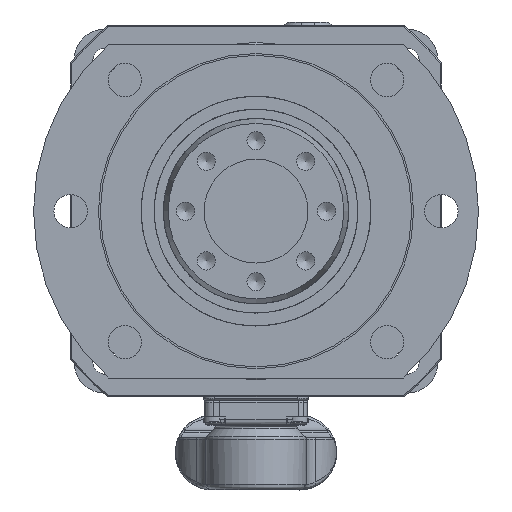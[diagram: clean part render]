
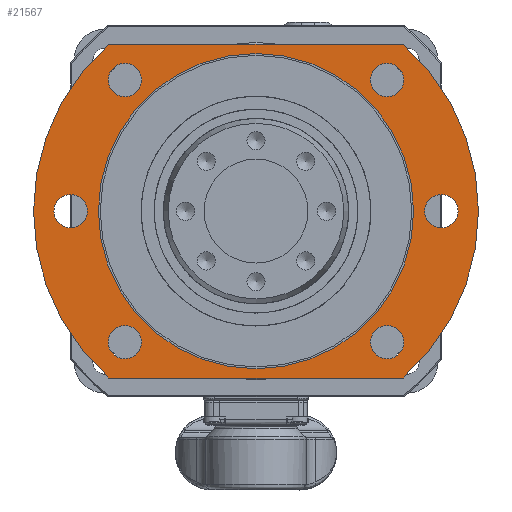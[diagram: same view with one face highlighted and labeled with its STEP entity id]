
A CAD part, front view. The second image highlights one B-rep face of the part: STEP entity #21567.
In plain terms, the highlighted planar face has unit normal (0, -1, 0).
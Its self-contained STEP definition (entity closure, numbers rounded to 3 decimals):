
#1099=LINE('',#30734,#2053);
#1100=LINE('',#30735,#2054);
#2053=VECTOR('',#25506,1000.);
#2054=VECTOR('',#25507,1000.);
#3242=PLANE('',#23041);
#3930=ORIENTED_EDGE('',*,*,#9205,.F.);
#3931=ORIENTED_EDGE('',*,*,#9206,.F.);
#3932=ORIENTED_EDGE('',*,*,#9207,.F.);
#3933=ORIENTED_EDGE('',*,*,#9208,.F.);
#3934=ORIENTED_EDGE('',*,*,#9209,.F.);
#3935=ORIENTED_EDGE('',*,*,#9210,.F.);
#3936=ORIENTED_EDGE('',*,*,#9211,.F.);
#3937=ORIENTED_EDGE('',*,*,#9180,.T.);
#3938=ORIENTED_EDGE('',*,*,#9212,.T.);
#3939=ORIENTED_EDGE('',*,*,#9202,.T.);
#3940=ORIENTED_EDGE('',*,*,#9213,.T.);
#9180=EDGE_CURVE('',#11891,#11890,#13721,.T.);
#9202=EDGE_CURVE('',#11911,#11912,#13740,.T.);
#9205=EDGE_CURVE('',#11913,#11913,#13741,.T.);
#9206=EDGE_CURVE('',#11914,#11914,#13742,.T.);
#9207=EDGE_CURVE('',#11915,#11915,#13743,.T.);
#9208=EDGE_CURVE('',#11916,#11916,#13744,.T.);
#9209=EDGE_CURVE('',#11917,#11917,#13745,.T.);
#9210=EDGE_CURVE('',#11918,#11918,#13746,.T.);
#9211=EDGE_CURVE('',#11919,#11919,#13747,.T.);
#9212=EDGE_CURVE('',#11890,#11911,#1099,.T.);
#9213=EDGE_CURVE('',#11912,#11891,#1100,.T.);
#11890=VERTEX_POINT('',#30660);
#11891=VERTEX_POINT('',#30662);
#11911=VERTEX_POINT('',#30715);
#11912=VERTEX_POINT('',#30716);
#11913=VERTEX_POINT('',#30721);
#11914=VERTEX_POINT('',#30723);
#11915=VERTEX_POINT('',#30725);
#11916=VERTEX_POINT('',#30727);
#11917=VERTEX_POINT('',#30729);
#11918=VERTEX_POINT('',#30731);
#11919=VERTEX_POINT('',#30733);
#13721=CIRCLE('',#23010,60.);
#13740=CIRCLE('',#23040,60.);
#13741=CIRCLE('',#23042,4.5);
#13742=CIRCLE('',#23043,4.5);
#13743=CIRCLE('',#23044,4.5);
#13744=CIRCLE('',#23045,4.5);
#13745=CIRCLE('',#23046,4.5);
#13746=CIRCLE('',#23047,4.5);
#13747=CIRCLE('',#23048,42.5);
#14876=EDGE_LOOP('',(#3930));
#14877=EDGE_LOOP('',(#3931));
#14878=EDGE_LOOP('',(#3932));
#14879=EDGE_LOOP('',(#3933));
#14880=EDGE_LOOP('',(#3934));
#14881=EDGE_LOOP('',(#3935));
#14882=EDGE_LOOP('',(#3936));
#14883=EDGE_LOOP('',(#3937,#3938,#3939,#3940));
#16649=FACE_BOUND('',#14876,.T.);
#16650=FACE_BOUND('',#14877,.T.);
#16651=FACE_BOUND('',#14878,.T.);
#16652=FACE_BOUND('',#14879,.T.);
#16653=FACE_BOUND('',#14880,.T.);
#16654=FACE_BOUND('',#14881,.T.);
#16655=FACE_BOUND('',#14882,.T.);
#16656=FACE_BOUND('',#14883,.T.);
#21567=ADVANCED_FACE('',(#16649,#16650,#16651,#16652,#16653,#16654,#16655,
#16656),#3242,.F.);
#23010=AXIS2_PLACEMENT_3D('',#30661,#25423,#25424);
#23040=AXIS2_PLACEMENT_3D('',#30714,#25486,#25487);
#23041=AXIS2_PLACEMENT_3D('',#30719,#25490,#25491);
#23042=AXIS2_PLACEMENT_3D('',#30720,#25492,#25493);
#23043=AXIS2_PLACEMENT_3D('',#30722,#25494,#25495);
#23044=AXIS2_PLACEMENT_3D('',#30724,#25496,#25497);
#23045=AXIS2_PLACEMENT_3D('',#30726,#25498,#25499);
#23046=AXIS2_PLACEMENT_3D('',#30728,#25500,#25501);
#23047=AXIS2_PLACEMENT_3D('',#30730,#25502,#25503);
#23048=AXIS2_PLACEMENT_3D('',#30732,#25504,#25505);
#25423=DIRECTION('',(0.,-1.,0.));
#25424=DIRECTION('',(0.,0.,-1.));
#25486=DIRECTION('',(0.,-1.,0.));
#25487=DIRECTION('',(0.,0.,-1.));
#25490=DIRECTION('',(0.,1.,0.));
#25491=DIRECTION('',(0.,0.,1.));
#25492=DIRECTION('',(0.,-1.,0.));
#25493=DIRECTION('',(1.,0.,0.));
#25494=DIRECTION('',(0.,-1.,0.));
#25495=DIRECTION('',(1.,0.,0.));
#25496=DIRECTION('',(0.,-1.,0.));
#25497=DIRECTION('',(1.,0.,0.));
#25498=DIRECTION('',(0.,-1.,0.));
#25499=DIRECTION('',(1.,0.,0.));
#25500=DIRECTION('',(0.,-1.,0.));
#25501=DIRECTION('',(1.,0.,0.));
#25502=DIRECTION('',(0.,-1.,0.));
#25503=DIRECTION('',(1.,0.,0.));
#25504=DIRECTION('',(0.,-1.,0.));
#25505=DIRECTION('',(0.,0.,-1.));
#25506=DIRECTION('',(-1.,0.,0.));
#25507=DIRECTION('',(1.,0.,0.));
#30660=CARTESIAN_POINT('',(39.686,-25.,45.));
#30661=CARTESIAN_POINT('',(0.,-25.,0.));
#30662=CARTESIAN_POINT('',(39.686,-25.,-45.));
#30714=CARTESIAN_POINT('',(0.,-25.,0.));
#30715=CARTESIAN_POINT('',(-39.686,-25.,45.));
#30716=CARTESIAN_POINT('',(-39.686,-25.,-45.));
#30719=CARTESIAN_POINT('',(0.,-25.,60.));
#30720=CARTESIAN_POINT('',(50.,-25.,0.));
#30721=CARTESIAN_POINT('',(54.5,-25.,0.));
#30722=CARTESIAN_POINT('',(-50.,-25.,0.));
#30723=CARTESIAN_POINT('',(-45.5,-25.,0.));
#30724=CARTESIAN_POINT('',(35.355,-25.,35.355));
#30725=CARTESIAN_POINT('',(39.855,-25.,35.355));
#30726=CARTESIAN_POINT('',(35.355,-25.,-35.355));
#30727=CARTESIAN_POINT('',(39.855,-25.,-35.355));
#30728=CARTESIAN_POINT('',(-35.355,-25.,-35.355));
#30729=CARTESIAN_POINT('',(-30.855,-25.,-35.355));
#30730=CARTESIAN_POINT('',(-35.355,-25.,35.355));
#30731=CARTESIAN_POINT('',(-30.855,-25.,35.355));
#30732=CARTESIAN_POINT('',(0.,-25.,0.));
#30733=CARTESIAN_POINT('',(0.,-25.,-42.5));
#30734=CARTESIAN_POINT('',(0.,-25.,45.));
#30735=CARTESIAN_POINT('',(0.,-25.,-45.));
